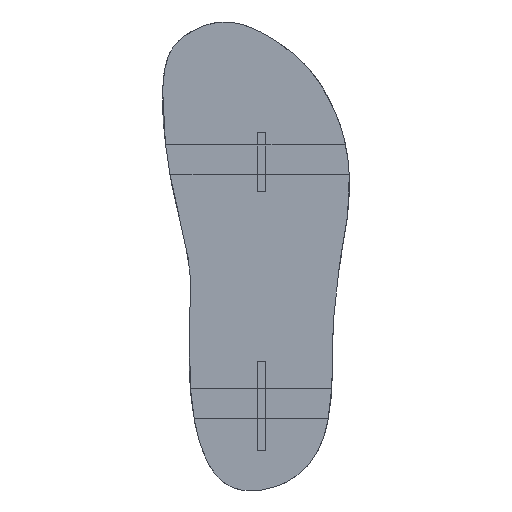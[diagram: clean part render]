
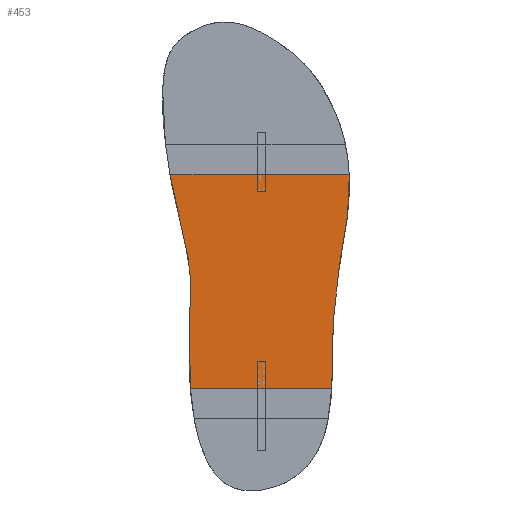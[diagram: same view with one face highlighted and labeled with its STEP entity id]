
A CAD part, front view. The second image highlights one B-rep face of the part: STEP entity #453.
In plain terms, the highlighted planar face has unit normal (0, -1, 0).
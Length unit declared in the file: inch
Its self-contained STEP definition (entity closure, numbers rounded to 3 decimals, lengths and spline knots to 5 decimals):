
#42=FACE_OUTER_BOUND('',#69,.T.);
#69=EDGE_LOOP('',(#322,#323,#324,#325));
#91=LINE('',#638,#130);
#94=LINE('',#686,#133);
#130=VECTOR('',#529,0.3937);
#133=VECTOR('',#536,0.3937);
#180=B_SPLINE_CURVE_WITH_KNOTS('',5,(#746,#747,#748,#749,#750,#751,#752,
#753),.UNSPECIFIED.,.F.,.F.,(6,1,1,6),(0.71695,0.77337,
0.84947,0.88028),.UNSPECIFIED.);
#181=B_SPLINE_CURVE_WITH_KNOTS('',5,(#754,#755,#756,#757,#758,#759,#760,
#761,#762),.UNSPECIFIED.,.F.,.F.,(6,1,1,1,6),(0.13107,0.13946,
0.21684,0.29242,0.29803),.UNSPECIFIED.);
#195=VERTEX_POINT('',#631);
#197=VERTEX_POINT('',#637);
#200=VERTEX_POINT('',#674);
#202=VERTEX_POINT('',#681);
#238=EDGE_CURVE('',#197,#195,#91,.T.);
#246=EDGE_CURVE('',#200,#202,#94,.T.);
#254=EDGE_CURVE('',#200,#195,#180,.T.);
#255=EDGE_CURVE('',#197,#202,#181,.T.);
#322=ORIENTED_EDGE('',*,*,#238,.T.);
#323=ORIENTED_EDGE('',*,*,#254,.F.);
#324=ORIENTED_EDGE('',*,*,#246,.T.);
#325=ORIENTED_EDGE('',*,*,#255,.F.);
#429=PLANE('',#502);
#453=ADVANCED_FACE('',(#42),#429,.F.);
#502=AXIS2_PLACEMENT_3D('',#745,#545,#546);
#529=DIRECTION('',(1.,0.,0.));
#536=DIRECTION('',(-1.,0.,0.));
#545=DIRECTION('center_axis',(0.,1.,0.));
#546=DIRECTION('ref_axis',(0.,0.,1.));
#631=CARTESIAN_POINT('',(1.72703,0.,2.5));
#637=CARTESIAN_POINT('',(-1.75,0.,2.5));
#638=CARTESIAN_POINT('',(-1.18797,0.,2.5));
#674=CARTESIAN_POINT('',(2.15896,0.,7.75));
#681=CARTESIAN_POINT('',(-2.25,0.,7.75));
#686=CARTESIAN_POINT('',(1.11635,0.,7.75));
#745=CARTESIAN_POINT('Origin',(-0.068,0.,5.8767));
#746=CARTESIAN_POINT('Ctrl Pts',(2.15896,0.,7.75));
#747=CARTESIAN_POINT('Ctrl Pts',(2.17673,0.,7.3733));
#748=CARTESIAN_POINT('Ctrl Pts',(2.13386,0.,6.4793));
#749=CARTESIAN_POINT('Ctrl Pts',(1.87111,0.,5.44039));
#750=CARTESIAN_POINT('Ctrl Pts',(1.72094,0.,4.66497));
#751=CARTESIAN_POINT('Ctrl Pts',(1.7596,0.,3.49903));
#752=CARTESIAN_POINT('Ctrl Pts',(1.73937,0.,2.72139));
#753=CARTESIAN_POINT('Ctrl Pts',(1.72703,0.,2.5));
#754=CARTESIAN_POINT('Ctrl Pts',(-1.75,0.,2.5));
#755=CARTESIAN_POINT('Ctrl Pts',(-1.75471,0.,2.56241));
#756=CARTESIAN_POINT('Ctrl Pts',(-1.79707,0.,3.20088));
#757=CARTESIAN_POINT('Ctrl Pts',(-1.7686,0.,4.39897));
#758=CARTESIAN_POINT('Ctrl Pts',(-1.60727,0.,5.34398));
#759=CARTESIAN_POINT('Ctrl Pts',(-1.85366,0.,5.94915));
#760=CARTESIAN_POINT('Ctrl Pts',(-2.12654,0.,7.06257));
#761=CARTESIAN_POINT('Ctrl Pts',(-2.24214,0.,7.70528));
#762=CARTESIAN_POINT('Ctrl Pts',(-2.25,0.,7.75));
